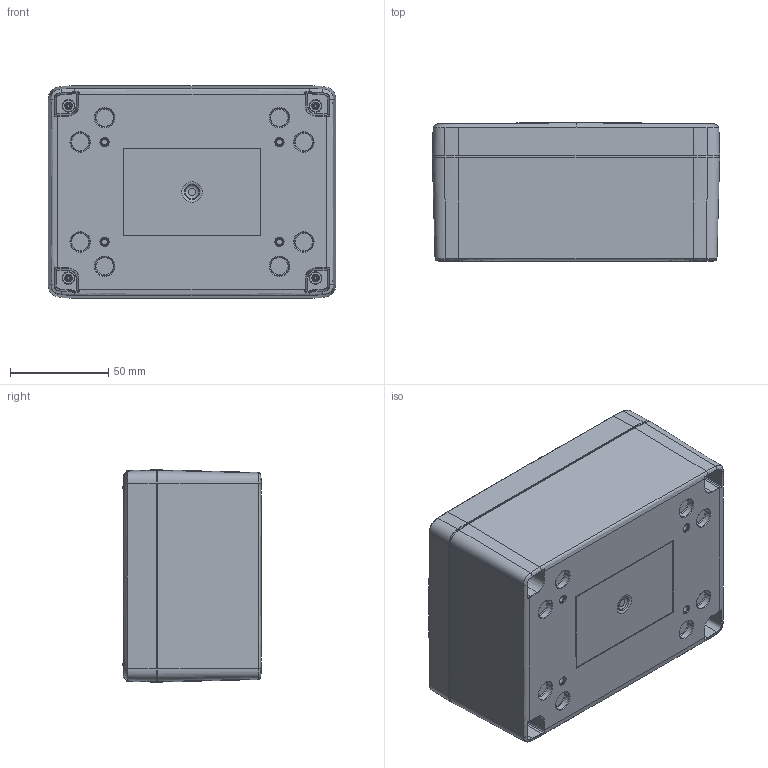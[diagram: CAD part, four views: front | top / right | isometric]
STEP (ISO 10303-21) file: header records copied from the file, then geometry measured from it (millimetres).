
FILE_DESCRIPTION (( 'STEP AP214' ), '1' );
FILE_NAME ('HN-46-12.STEP', '2026-09-24T18:01:40', ( '' ), ( '' ), 'SwSTEP 2.0', 'SolidWorks 2026', '' );
FILE_SCHEMA (( 'AUTOMOTIVE_DESIGN' ));
Length unit declared in the file: inch
Products named in the file (9): INSERTS-3_INSERTS-3; HN-46BN_HN-46BPN-01; HN-46C_HN-46C-02; HN-46G_default; HN-46CG_HN-46CG-02; HN-46B_HN-46BP-01; SCREWS-054_DEFAULT; LABEL-107; HN-46-12
Assembly tree (14 placements, depth 3):
  HN-46-12
    HN-46B_HN-46BP-01
      HN-46BN_HN-46BPN-01
      INSERTS-3_INSERTS-3  x4
      LABEL-107
    HN-46CG_HN-46CG-02
      HN-46C_HN-46C-02
      HN-46G_default
    SCREWS-054_DEFAULT  x4
Bounding box: 146.05 x 70.2 x 107.95 mm (x, y, z)
Volume: 233885.4 mm3; surface area: 157754.1 mm2
Topology: 11 solids, 13 shells, 3181 faces, 7474 edges, 4315 vertices
Faces by surface type: bspline 794, torus 696, cone 606, plane 537, cylinder 480, sphere 68
Full cylindrical faces by diameter (mm): 2.413 x4, 2.705 x4, 4.318 x4, 4.445 x16, 4.699 x8, 5.283 x8, 6.274 x4, 6.858 x4
Entity records: 112729 total; most frequent: CARTESIAN_POINT 54620, ORIENTED_EDGE 12758, DIRECTION 10733, EDGE_CURVE 6382, AXIS2_PLACEMENT_3D 4688, VERTEX_POINT 3821, EDGE_LOOP 3040, FACE_OUTER_BOUND 2867
